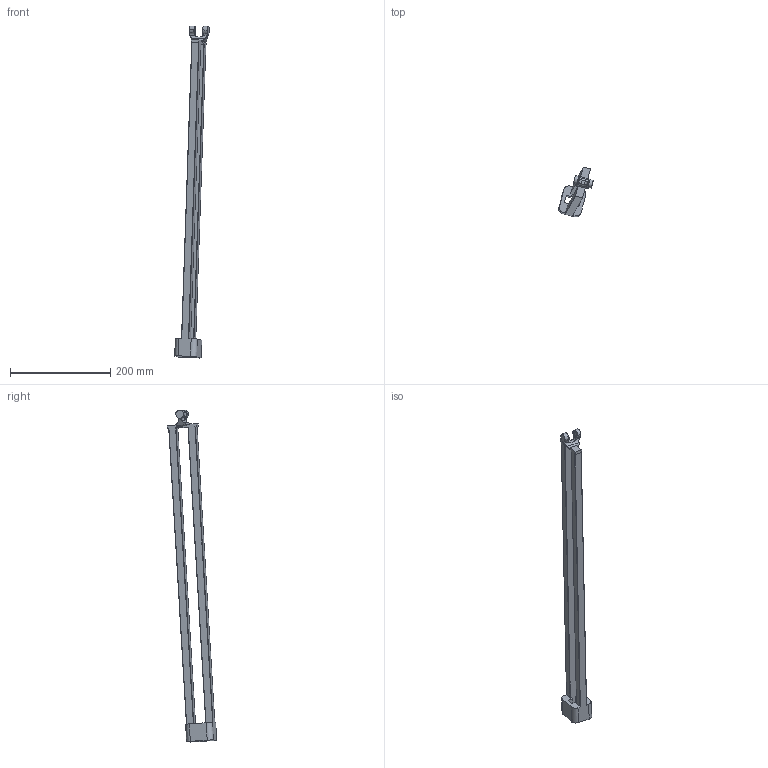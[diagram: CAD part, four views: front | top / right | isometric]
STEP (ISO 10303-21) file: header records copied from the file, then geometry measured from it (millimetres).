
FILE_DESCRIPTION (( 'STEP AP214' ), '1' );
FILE_NAME ('IRB365_1.5-1300_OmniCore_rev00_TELESCOPIC_UNIT_2_1_CAD.step', '2025-09-09T11:52:34', ( '' ), ( '' ), 'SwSTEP 2.0', 'SolidWorks 2024', '' );
FILE_SCHEMA (( 'AUTOMOTIVE_DESIGN' ));
Length unit declared in the file: millimetre
Products named in the file (1): IRB365_1.5-1300_OmniCore_rev00_TELESCOPIC_UNIT_2_1_CAD
Bounding box: 69.03 x 98.81 x 663.83 mm (x, y, z)
Volume: 343816.4 mm3; surface area: 88907.6 mm2
Topology: 1 solids, 1 shells, 77 faces, 228 edges, 152 vertices
Faces by surface type: plane 43, cylinder 34
Entity records: 3599 total; most frequent: CARTESIAN_POINT 647, ORIENTED_EDGE 456, DIRECTION 424, EDGE_CURVE 228, VERTEX_POINT 152, LINE 148, VECTOR 148, AXIS2_PLACEMENT_3D 138
